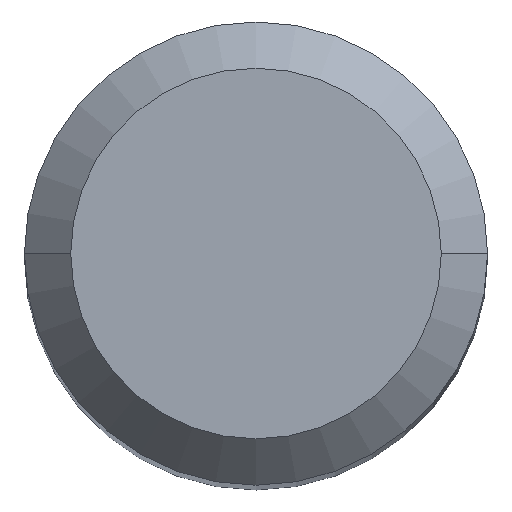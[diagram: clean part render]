
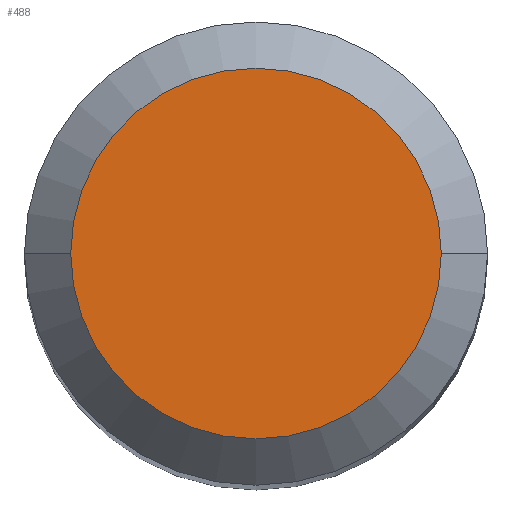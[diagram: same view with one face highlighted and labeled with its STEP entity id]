
A CAD part, top view. The second image highlights one B-rep face of the part: STEP entity #488.
In plain terms, the highlighted planar face has unit normal (0, 0, 1).
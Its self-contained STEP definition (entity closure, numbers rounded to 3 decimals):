
#33 = DIRECTION ( 'NONE',  ( -1., 0., 0. ) ) ;
#34 = VERTEX_POINT ( 'NONE', #168 ) ;
#78 = DIRECTION ( 'NONE',  ( 0., 0., -1. ) ) ;
#86 = CIRCLE ( 'NONE', #170, 2.4 ) ;
#112 = EDGE_CURVE ( 'NONE', #257, #34, #349, .T. ) ;
#134 = DIRECTION ( 'NONE',  ( 0., 0., -1. ) ) ;
#158 = CARTESIAN_POINT ( 'NONE',  ( 0., 2.4, 0. ) ) ;
#168 = CARTESIAN_POINT ( 'NONE',  ( -2.4, 0., 0. ) ) ;
#170 = AXIS2_PLACEMENT_3D ( 'NONE', #530, #134, #490 ) ;
#203 = EDGE_LOOP ( 'NONE', ( #322, #507 ) ) ;
#204 = DIRECTION ( 'NONE',  ( 1., 0., 0. ) ) ;
#246 = AXIS2_PLACEMENT_3D ( 'NONE', #158, #519, #204 ) ;
#257 = VERTEX_POINT ( 'NONE', #278 ) ;
#278 = CARTESIAN_POINT ( 'NONE',  ( 2.4, 0., 0. ) ) ;
#306 = FACE_OUTER_BOUND ( 'NONE', #203, .T. ) ;
#322 = ORIENTED_EDGE ( 'NONE', *, *, #570, .F. ) ;
#327 = AXIS2_PLACEMENT_3D ( 'NONE', #474, #78, #33 ) ;
#349 = CIRCLE ( 'NONE', #327, 2.4 ) ;
#384 = PLANE ( 'NONE',  #246 ) ;
#474 = CARTESIAN_POINT ( 'NONE',  ( 0., 0., 0. ) ) ;
#488 = ADVANCED_FACE ( 'NONE', ( #306 ), #384, .T. ) ;
#490 = DIRECTION ( 'NONE',  ( -1., 0., 0. ) ) ;
#507 = ORIENTED_EDGE ( 'NONE', *, *, #112, .F. ) ;
#519 = DIRECTION ( 'NONE',  ( 0., 0., 1. ) ) ;
#530 = CARTESIAN_POINT ( 'NONE',  ( 0., 0., 0. ) ) ;
#570 = EDGE_CURVE ( 'NONE', #34, #257, #86, .T. ) ;
